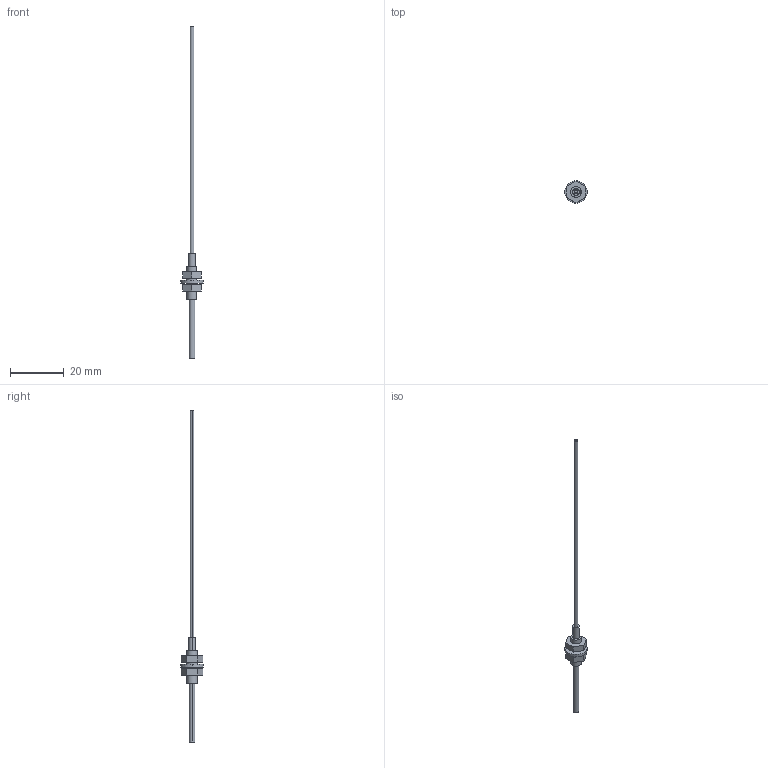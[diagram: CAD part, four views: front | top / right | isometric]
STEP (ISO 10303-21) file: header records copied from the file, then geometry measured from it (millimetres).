
FILE_DESCRIPTION (( 'STEP AP203' ), '1' );
FILE_NAME ('FT-FM2S.STEP', '2005-09-08T05:48:00', ( '' ), ( '' ), 'SwSTEP 2.0', 'SolidWorks 2004073', '' );
FILE_SCHEMA (( 'CONFIG_CONTROL_DESIGN' ));
Length unit declared in the file: millimetre
Products named in the file (1): FT-FM2S
Bounding box: 8.5 x 8.5 x 124 mm (x, y, z)
Volume: 581.8 mm3; surface area: 1181.8 mm2
Topology: 4 solids, 4 shells, 42 faces, 90 edges, 60 vertices
Faces by surface type: plane 25, cylinder 17
Entity records: 1231 total; most frequent: DIRECTION 210, CARTESIAN_POINT 193, ORIENTED_EDGE 180, EDGE_CURVE 90, AXIS2_PLACEMENT_3D 77, VERTEX_POINT 60, VECTOR 56, LINE 56
